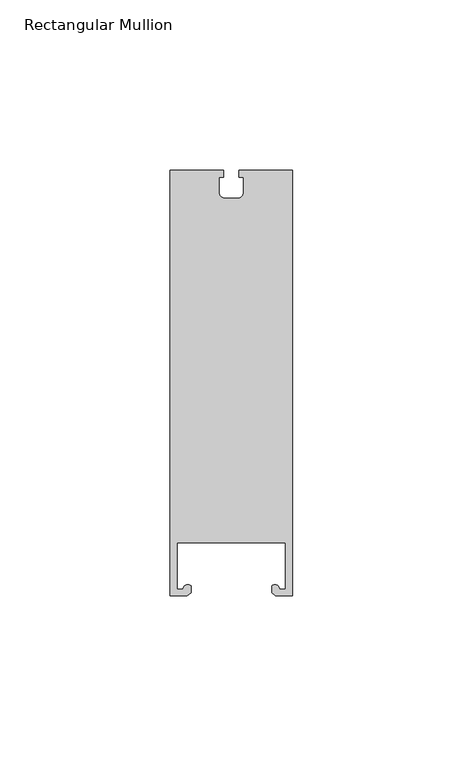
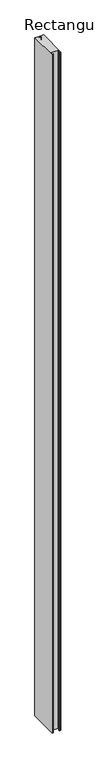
"""IFC4 building model written with IfcOpenShell, lengths in millimetres: member geometry, Rectangular Mullion : LD.1250_renson."""

from ifc_helpers import new_model, si_unit, point, frame, frame_2d, origin, place, context, project, spatial, polyline, circle_curve, trimmed, segment, composite_curve, outline, extrude, source, transform, mapped, element, save


def rectangular_mullion_7803f5c4(model_context):
    return source(origin(), model_context, "Body", "SweptSolid", [
        extrude(outline(composite_curve([segment(polyline([(18.0, -126.0), (13.0, -126.0), (11.8999059, -125.0769114), (11.8999059, -123.061549)]), True, "CONTINUOUS"), segment(trimmed(circle_curve(frame_2d((12.7950072, -123.8498072)), 1.1927101), [point((11.8999059, -123.061549))], [point((13.6901084, -123.061549))], False, "CARTESIAN"), True, "CONTINUOUS"), segment(polyline([(13.6901084, -123.061549), (14.3252443, -123.9686169), (15.8636449, -123.9686169), (15.8636449, -110.3621189), (-16.0, -110.3621189), (-16.0, -123.9686169), (-14.3252443, -123.9686169), (-13.6901084, -123.061549)]), True, "CONTINUOUS"), segment(trimmed(circle_curve(frame_2d((-12.7950072, -123.8498072)), 1.1927101), [point((-13.6901084, -123.061549))], [point((-11.8999059, -123.061549))], False, "CARTESIAN"), True, "CONTINUOUS"), segment(polyline([(-11.8999059, -123.061549), (-11.8999059, -125.0769114), (-13.0, -126.0), (-18.0, -126.0), (-18.0, -1.0), (-2.2489445, -1.0), (-2.2489445, -3.0843142), (-3.59041, -3.0843142), (-3.59041, -7.4667227)]), True, "CONTINUOUS"), segment(trimmed(circle_curve(frame_2d((-1.8285608, -7.4667227)), 1.7618492), [point((-3.59041, -7.4667227))], [point((-2.0972447, -9.2079641))], True, "CARTESIAN"), True, "CONTINUOUS"), segment(polyline([(-2.0972447, -9.2079641), (1.559877, -9.2079641)]), True, "CONTINUOUS"), segment(trimmed(circle_curve(frame_2d((1.8285608, -7.4667227)), 1.7618492), [point((1.559877, -9.2079641))], [point((3.59041, -7.4667227))], True, "CARTESIAN"), True, "CONTINUOUS"), segment(polyline([(3.59041, -7.4667227), (3.59041, -3.0843142), (2.2489445, -3.0843142), (2.2489445, -1.0), (18.0, -1.0), (18.0, -126.0)]), True, "CONTINUOUS")], self_intersect=False)), frame((0.0, 0.0, -3000.0), z_axis=(0.0, 0.0, 1.0), x_axis=(1.0, 0.0, 0.0)), (0.0, 0.0, 1.0), 3000.0),
    ])


if __name__ == "__main__":
    model = new_model("IFC4")
    model_context = context("Model", 3, world=origin())
    ifc_project = project(units=[si_unit("LENGTHUNIT", "METRE", prefix="MILLI")], contexts=[model_context])
    site = spatial("IfcSite", under=ifc_project)
    building = spatial("IfcBuilding", under=site)
    placement = place(None, origin())
    rectangular_mullion_shape = rectangular_mullion_7803f5c4(model_context)
    element("IfcMember", 1, ObjectType="Rectangular Mullion : LD.1250_renson", at=placement, inside=building, context=model_context, shape_type="MappedRepresentation", body=[
        mapped(rectangular_mullion_shape, transform((0.0, 0.0, 0.0), x_axis=(1.0, 0.0, 0.0), y_axis=(0.0, 1.0, 0.0), z_axis=(0.0, 0.0, 1.0))),
    ])
    save(model, "model.ifc")
